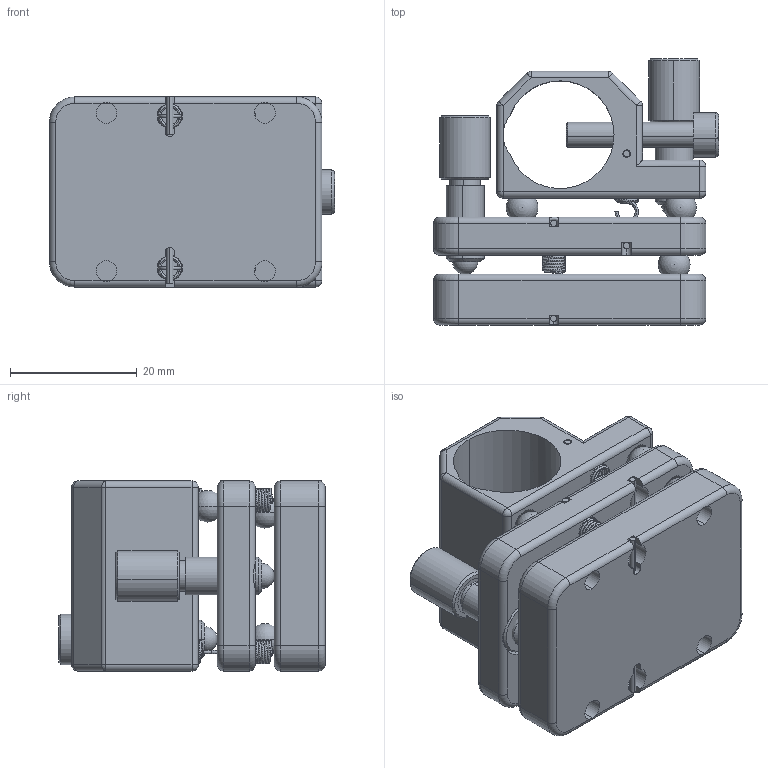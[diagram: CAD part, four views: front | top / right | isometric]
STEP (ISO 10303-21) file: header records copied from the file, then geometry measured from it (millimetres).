
FILE_DESCRIPTION (( 'STEP AP203' ), '1' );
FILE_NAME ('7MMA4慾嫖奪釱.STEP', '2019-12-04T03:08:37', ( '' ), ( '' ), 'SwSTEP 2.0', 'SolidWorks 2018', '' );
FILE_SCHEMA (( 'CONFIG_CONTROL_DESIGN' ));
Length unit declared in the file: millimetre
Products named in the file (1): 7MMA4慾嫖奪釱
Bounding box: 45 x 42 x 30 mm (x, y, z)
Volume: 26666.4 mm3; surface area: 17252.9 mm2
Topology: 30 solids, 30 shells, 464 faces, 1125 edges, 673 vertices
Faces by surface type: cylinder 176, plane 140, cone 56, torus 34, bspline 32, sphere 26
Entity records: 25484 total; most frequent: CARTESIAN_POINT 14835, DIRECTION 2361, ORIENTED_EDGE 2110, EDGE_CURVE 1055, AXIS2_PLACEMENT_3D 965, VERTEX_POINT 655, CIRCLE 532, EDGE_LOOP 504
